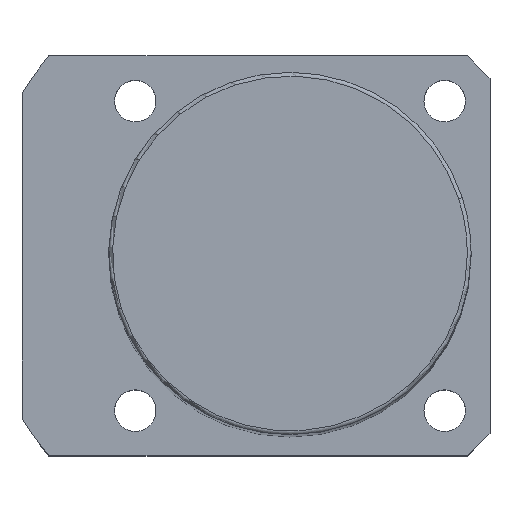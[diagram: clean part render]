
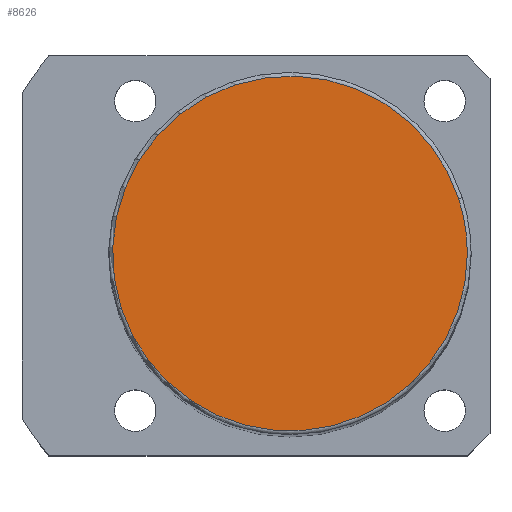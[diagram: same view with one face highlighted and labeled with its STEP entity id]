
A CAD part, top view. The second image highlights one B-rep face of the part: STEP entity #8626.
In plain terms, the highlighted planar face has unit normal (0, 0, 1).
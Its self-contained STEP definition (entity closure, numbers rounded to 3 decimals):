
#8559=CARTESIAN_POINT('',(22.35,7.262,189.0));
#8560=VERTEX_POINT('',#8559);
#8578=CARTESIAN_POINT('',(-22.35,-7.262,189.0));
#8579=VERTEX_POINT('',#8578);
#8587=CARTESIAN_POINT('',(0.0,0.0,189.0));
#8588=DIRECTION('',(0.0,0.0,1.0));
#8589=DIRECTION('',(1.0,0.0,0.0));
#8590=AXIS2_PLACEMENT_3D('',#8587,#8588,#8589);
#8591=CIRCLE('',#8590,23.5);
#8592=EDGE_CURVE('no 4161',#8560,#8579,#8591,.T.);
#8602=CARTESIAN_POINT('',(23.5,0.0,189.0));
#8603=VERTEX_POINT('',#8602);
#8604=CARTESIAN_POINT('',(0.0,0.0,189.0));
#8605=DIRECTION('',(0.0,0.0,1.0));
#8606=DIRECTION('',(1.0,0.0,0.0));
#8607=AXIS2_PLACEMENT_3D('',#8604,#8605,#8606);
#8608=CIRCLE('',#8607,23.5);
#8609=EDGE_CURVE('no 4170',#8603,#8560,#8608,.T.);
#8610=ORIENTED_EDGE('',*,*,#8609,.T.);
#8611=ORIENTED_EDGE('',*,*,#8592,.T.);
#8612=CARTESIAN_POINT('',(0.0,0.0,189.0));
#8613=DIRECTION('',(0.0,0.0,1.0));
#8614=DIRECTION('',(1.0,0.0,0.0));
#8615=AXIS2_PLACEMENT_3D('',#8612,#8613,#8614);
#8616=CIRCLE('',#8615,23.5);
#8617=EDGE_CURVE('no 4176',#8579,#8603,#8616,.T.);
#8618=ORIENTED_EDGE('',*,*,#8617,.T.);
#8619=EDGE_LOOP('',(#8610,#8611,#8618));
#8620=FACE_OUTER_BOUND('',#8619,.T.);
#8621=CARTESIAN_POINT('',(0.0,0.0,189.0));
#8622=DIRECTION('',(0.0,0.0,1.0));
#8623=DIRECTION('',(1.0,0.0,0.0));
#8624=AXIS2_PLACEMENT_3D('',#8621,#8622,#8623);
#8625=PLANE('',#8624);
#8626=ADVANCED_FACE('no 4163',(#8620),#8625,.T.);
